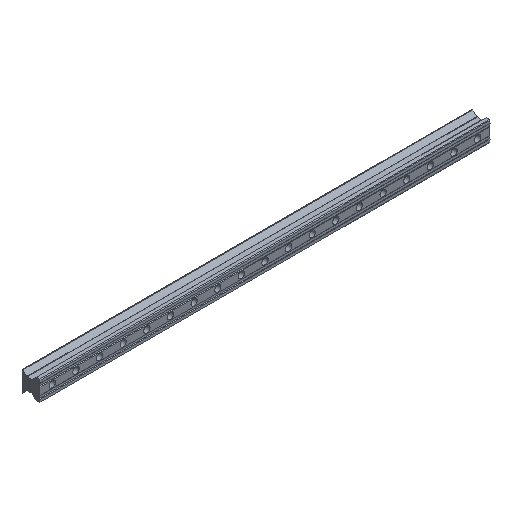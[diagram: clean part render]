
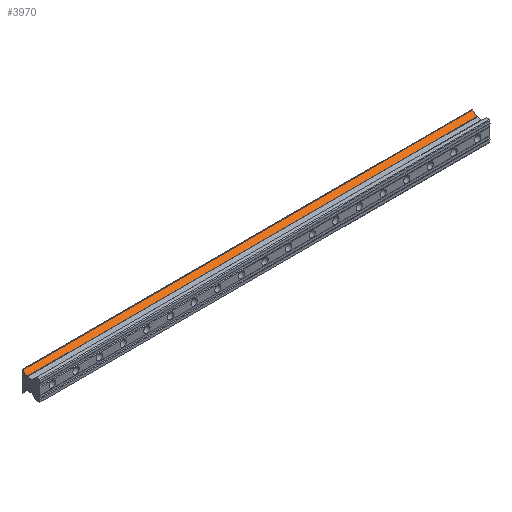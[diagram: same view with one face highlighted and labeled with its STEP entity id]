
A CAD part, isometric view. The second image highlights one B-rep face of the part: STEP entity #3970.
In plain terms, the highlighted planar face has unit normal (0, -0.707, 0.707) as drawn and (0.707, -0.707, 0) by its records, which use the part's own axes.
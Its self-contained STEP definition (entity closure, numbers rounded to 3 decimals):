
#317=PLANE('',#4269);
#527=FACE_OUTER_BOUND('',#779,.T.);
#779=EDGE_LOOP('',(#3505,#3506,#3507,#3508));
#1109=LINE('',#7791,#1467);
#1145=LINE('',#7870,#1503);
#1160=LINE('',#7910,#1518);
#1164=LINE('',#7918,#1522);
#1467=VECTOR('',#4996,10.);
#1503=VECTOR('',#5050,12.314);
#1518=VECTOR('',#5089,10.);
#1522=VECTOR('',#5101,10.);
#1977=VERTEX_POINT('',#7788);
#1978=VERTEX_POINT('',#7790);
#2011=VERTEX_POINT('',#7867);
#2012=VERTEX_POINT('',#7869);
#2509=EDGE_CURVE('',#1977,#1978,#1109,.T.);
#2549=EDGE_CURVE('',#2012,#2011,#1145,.T.);
#2570=EDGE_CURVE('',#2011,#1978,#1160,.T.);
#2574=EDGE_CURVE('',#2012,#1977,#1164,.T.);
#3505=ORIENTED_EDGE('',*,*,#2574,.F.);
#3506=ORIENTED_EDGE('',*,*,#2549,.T.);
#3507=ORIENTED_EDGE('',*,*,#2570,.T.);
#3508=ORIENTED_EDGE('',*,*,#2509,.F.);
#3970=ADVANCED_FACE('',(#527),#317,.T.);
#4269=AXIS2_PLACEMENT_3D('',#7917,#5099,#5100);
#4996=DIRECTION('',(-0.707,-0.707,0.));
#5050=DIRECTION('',(-0.707,-0.707,0.));
#5089=DIRECTION('',(0.,0.,-1.));
#5099=DIRECTION('center_axis',(0.707,-0.707,0.));
#5100=DIRECTION('ref_axis',(0.,0.,-1.));
#5101=DIRECTION('',(0.,0.,-1.));
#7788=CARTESIAN_POINT('',(44.854,37.801,-890.));
#7790=CARTESIAN_POINT('',(36.146,29.094,-890.));
#7791=CARTESIAN_POINT('',(44.854,37.801,-890.));
#7867=CARTESIAN_POINT('',(36.146,29.094,110.));
#7869=CARTESIAN_POINT('',(44.854,37.801,110.));
#7870=CARTESIAN_POINT('',(44.854,37.801,110.));
#7910=CARTESIAN_POINT('',(36.146,29.094,57.6));
#7917=CARTESIAN_POINT('Origin',(44.854,37.801,0.));
#7918=CARTESIAN_POINT('',(44.854,37.801,57.6));
